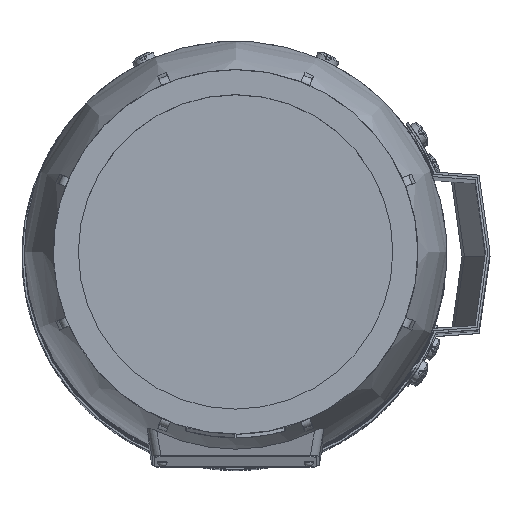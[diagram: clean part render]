
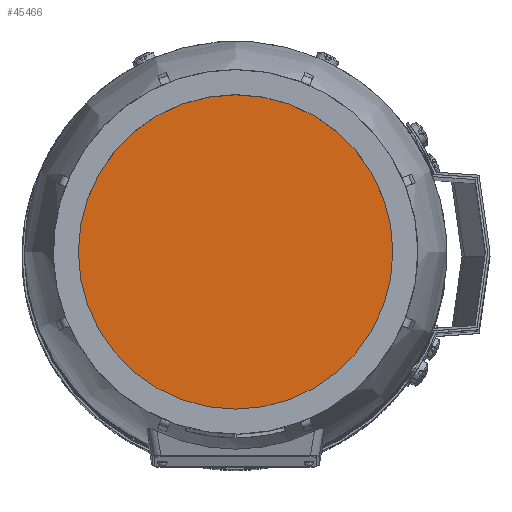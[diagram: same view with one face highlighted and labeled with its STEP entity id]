
A CAD part, top view. The second image highlights one B-rep face of the part: STEP entity #45466.
In plain terms, the highlighted planar face has unit normal (0, 0, 1) as drawn and (0, 1, 0) by its records, which use the part's own axes.
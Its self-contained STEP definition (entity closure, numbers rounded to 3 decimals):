
#9545=ORIENTED_EDGE('',*,*,#23283,.F.);
#23283=EDGE_CURVE('',#30152,#30152,#34779,.T.);
#30152=VERTEX_POINT('',#65617);
#34779=CIRCLE('',#47954,67.736);
#36855=EDGE_LOOP('',(#9545));
#40163=FACE_BOUND('',#36855,.T.);
#43489=PLANE('',#47953);
#45466=ADVANCED_FACE('',(#40163),#43489,.F.);
#47953=AXIS2_PLACEMENT_3D('',#65615,#52446,#52447);
#47954=AXIS2_PLACEMENT_3D('',#65616,#52448,#52449);
#52446=DIRECTION('',(0.,-1.,0.));
#52447=DIRECTION('',(0.,0.,-1.));
#52448=DIRECTION('',(0.,-1.,0.));
#52449=DIRECTION('',(0.,0.,-1.));
#65615=CARTESIAN_POINT('',(0.,154.,0.));
#65616=CARTESIAN_POINT('',(0.,154.,0.));
#65617=CARTESIAN_POINT('',(0.,154.,-67.736));
